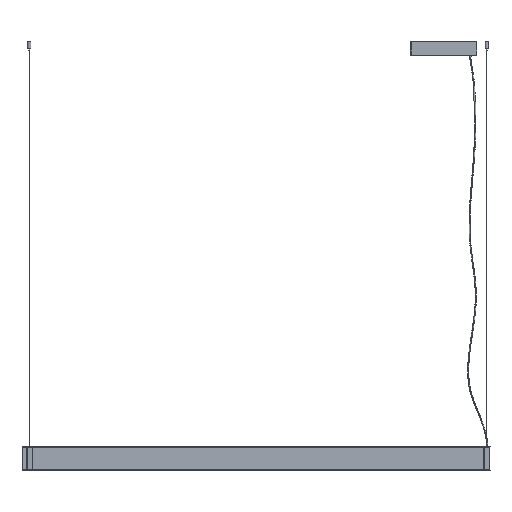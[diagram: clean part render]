
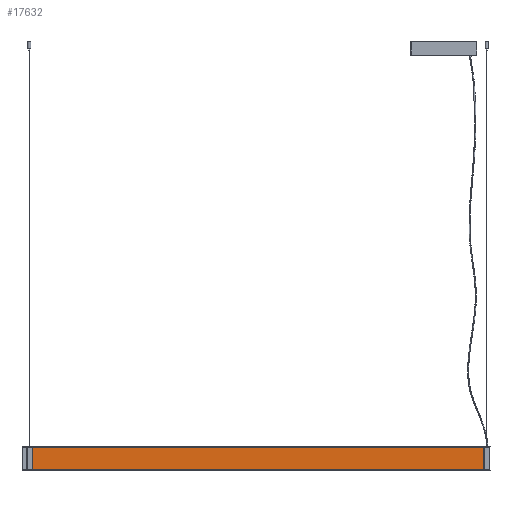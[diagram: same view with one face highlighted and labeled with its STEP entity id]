
A CAD part, top view. The second image highlights one B-rep face of the part: STEP entity #17632.
In plain terms, the highlighted planar face has unit normal (0, 0, 1).
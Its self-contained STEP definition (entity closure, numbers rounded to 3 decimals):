
#277 = CARTESIAN_POINT ( 'NONE',  ( -1730., -43., 56. ) ) ;
#424 = PLANE ( 'NONE',  #904 ) ;
#904 = AXIS2_PLACEMENT_3D ( 'NONE', #7560, #17495, #8987 ) ;
#1690 = LINE ( 'NONE', #16812, #8790 ) ;
#2349 = DIRECTION ( 'NONE',  ( 0., 1., 0. ) ) ;
#3111 = CARTESIAN_POINT ( 'NONE',  ( -1730., 43., 56. ) ) ;
#3411 = EDGE_CURVE ( 'NONE', #5751, #11767, #6636, .T. ) ;
#3716 = LINE ( 'NONE', #3111, #18374 ) ;
#3833 = CARTESIAN_POINT ( 'NONE',  ( -20., -43., 56. ) ) ;
#4875 = ORIENTED_EDGE ( 'NONE', *, *, #13031, .T. ) ;
#4961 = EDGE_CURVE ( 'NONE', #9435, #11767, #3716, .T. ) ;
#5460 = DIRECTION ( 'NONE',  ( 1., 0., 0. ) ) ;
#5751 = VERTEX_POINT ( 'NONE', #277 ) ;
#6636 = LINE ( 'NONE', #13202, #13738 ) ;
#7560 = CARTESIAN_POINT ( 'NONE',  ( -1730., 45., 56. ) ) ;
#8373 = VERTEX_POINT ( 'NONE', #3833 ) ;
#8776 = EDGE_LOOP ( 'NONE', ( #9668, #15818, #17597, #4875 ) ) ;
#8790 = VECTOR ( 'NONE', #5460, 1000. ) ;
#8987 = DIRECTION ( 'NONE',  ( 0., -1., 0. ) ) ;
#9435 = VERTEX_POINT ( 'NONE', #17699 ) ;
#9668 = ORIENTED_EDGE ( 'NONE', *, *, #13760, .T. ) ;
#10783 = CARTESIAN_POINT ( 'NONE',  ( -20., 45., 56. ) ) ;
#11055 = FACE_OUTER_BOUND ( 'NONE', #8776, .T. ) ;
#11767 = VERTEX_POINT ( 'NONE', #17427 ) ;
#11852 = VECTOR ( 'NONE', #2349, 1000. ) ;
#13031 = EDGE_CURVE ( 'NONE', #5751, #8373, #1690, .T. ) ;
#13044 = DIRECTION ( 'NONE',  ( -1., 0., 0. ) ) ;
#13202 = CARTESIAN_POINT ( 'NONE',  ( -1730., 45., 56. ) ) ;
#13738 = VECTOR ( 'NONE', #16023, 1000. ) ;
#13760 = EDGE_CURVE ( 'NONE', #8373, #9435, #15634, .T. ) ;
#15634 = LINE ( 'NONE', #10783, #11852 ) ;
#15818 = ORIENTED_EDGE ( 'NONE', *, *, #4961, .T. ) ;
#16023 = DIRECTION ( 'NONE',  ( 0., 1., 0. ) ) ;
#16812 = CARTESIAN_POINT ( 'NONE',  ( -1730., -43., 56. ) ) ;
#17427 = CARTESIAN_POINT ( 'NONE',  ( -1730., 43., 56. ) ) ;
#17495 = DIRECTION ( 'NONE',  ( 0., 0., -1. ) ) ;
#17597 = ORIENTED_EDGE ( 'NONE', *, *, #3411, .F. ) ;
#17632 = ADVANCED_FACE ( 'NONE', ( #11055 ), #424, .F. ) ;
#17699 = CARTESIAN_POINT ( 'NONE',  ( -20., 43., 56. ) ) ;
#18374 = VECTOR ( 'NONE', #13044, 1000. ) ;
